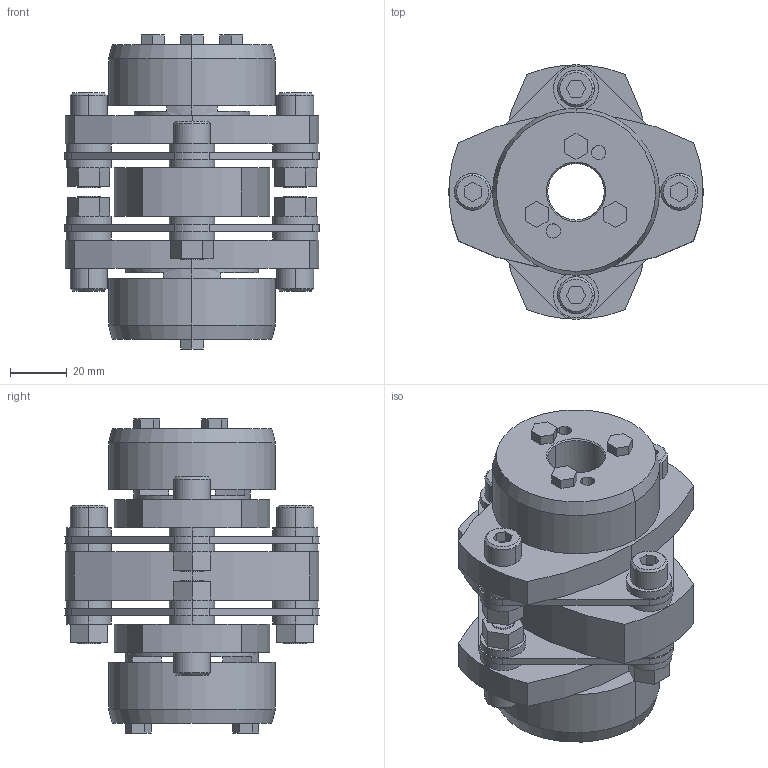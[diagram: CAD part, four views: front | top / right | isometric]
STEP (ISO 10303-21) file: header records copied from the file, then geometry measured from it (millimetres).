
FILE_DESCRIPTION((''),'2;1');
FILE_NAME('LCD-90T7-20×25.stp','2011-09-12T08:32:57',(''),(''),'AutoCAD STEP 2000i','AutoCAD 2000i',', , ');
FILE_SCHEMA(('CONFIG_CONTROL_DESIGN'));
Length unit declared in the file: millimetre
Products named in the file (6): LCD-90T7-19×25; 忣兜1; LC90T7-T025; LC90T7-T019-1; LC90T7-T019; LCD90-ITA
Assembly tree (5 placements, depth 2):
  LCD-90T7-19×25
    忣兜1
    LC90T7-T025
    LC90T7-T019-1
    LC90T7-T019
    LCD90-ITA
Bounding box: 90 x 89.94 x 111 mm (x, y, z)
Volume: 271582.6 mm3; surface area: 73565.4 mm2
Topology: 1 solids, 1 shells, 313 faces, 762 edges, 500 vertices
Faces by surface type: plane 169, cylinder 120, cone 24
Entity records: 9441 total; most frequent: DIRECTION 1680, CARTESIAN_POINT 1581, ORIENTED_EDGE 1524, EDGE_CURVE 762, AXIS2_PLACEMENT_3D 599, VERTEX_POINT 500, VECTOR 482, LINE 482
